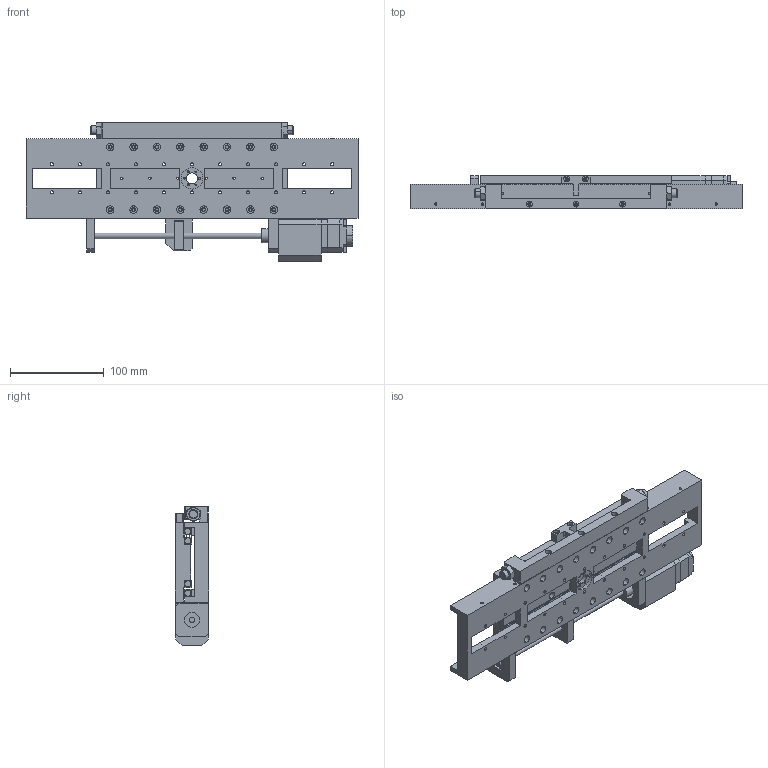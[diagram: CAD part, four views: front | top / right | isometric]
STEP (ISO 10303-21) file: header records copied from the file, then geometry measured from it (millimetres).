
FILE_DESCRIPTION (( 'STEP AP214' ), '1' );
FILE_NAME ('VSM17-X-150-HR-LS.STEP', '2022-12-15T16:16:25', ( '' ), ( '' ), 'SwSTEP 2.0', 'SolidWorks 2022', '' );
FILE_SCHEMA (( 'AUTOMOTIVE_DESIGN' ));
Length unit declared in the file: millimetre
Products named in the file (13): VSM17-X-150 Limit switch mounting block; Simplified VSM17-X LS Actuator; Simplified VSM17-X-150 Carriage; 3-8 UNF Nut; Simplified Drivetrain_VSM17-X-150; Simplified VSM17-X-150 Base V2; Simplified Gearbox; Simplified Leadscrew Nut; Simplified Motor Gearbox; Simplified Roller Bearing 150; Simplified Motor; VSM17-X-150-HR-LS; Simplified Limit Switch
Assembly tree (17 placements, depth 3):
  VSM17-X-150-HR-LS
    Simplified VSM17-X-150 Base V2
    Simplified Roller Bearing 150  x4
    Simplified VSM17-X-150 Carriage
    Simplified Leadscrew Nut
    Simplified Drivetrain_VSM17-X-150
    VSM17-X-150 Limit switch mounting block
    Simplified Limit Switch  x2
    Simplified VSM17-X LS Actuator
    3-8 UNF Nut  x2
    Simplified Motor Gearbox
      Simplified Gearbox
      Simplified Motor
Bounding box: 355 x 36 x 148.75 mm (x, y, z)
Volume: 741016.3 mm3; surface area: 231356 mm2
Topology: 16 solids, 16 shells, 1116 faces, 2792 edges, 1773 vertices
Faces by surface type: cylinder 550, plane 380, cone 166, torus 20
Entity records: 26811 total; most frequent: DIRECTION 4512, CARTESIAN_POINT 4371, ORIENTED_EDGE 3960, EDGE_CURVE 1980, AXIS2_PLACEMENT_3D 1742, VERTEX_POINT 1295, EDGE_LOOP 1117, VECTOR 1028
